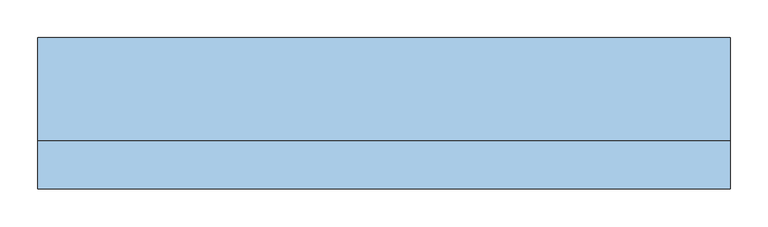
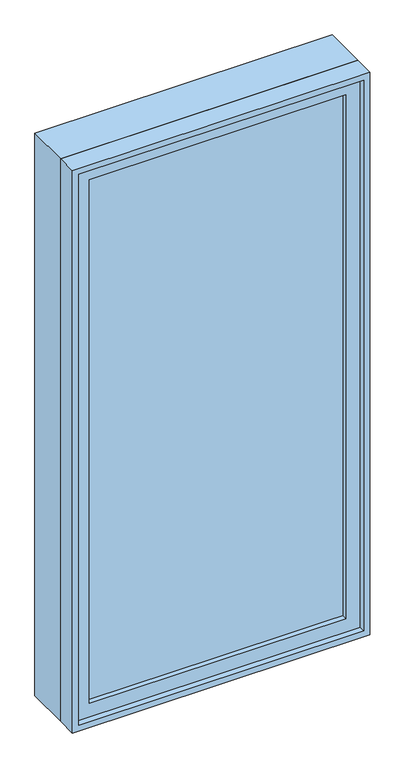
"""IFC4 building model written with IfcOpenShell, lengths in millimetres: window geometry, Фиксированные : 0915 x 1830 мм."""

from ifc_helpers import new_model, si_unit, frame, origin, place, context, project, spatial, polyline, outline, extrude, source, transform, mapped, element, save


def window_ed32443c(model_context):
    return source(origin(), model_context, "Body", "SweptSolid", [
        extrude(outline(polyline([(-394.5, -78.0), (-394.5, -66.0), (394.5, -66.0), (394.5, -78.0), (-394.5, -78.0)])), frame((0.0, 0.0, 368.0), z_axis=(0.0, 0.0, 1.0), x_axis=(1.0, 0.0, 0.0)), (0.0, 0.0, 1.0), 1704.0),
        extrude(outline(polyline([(2116.0, -438.5), (324.0, -438.5), (324.0, 438.5), (2116.0, 438.5), (2116.0, -438.5)]), holes=[polyline([(2072.0, -394.5), (2072.0, 394.5), (368.0, 394.5), (368.0, -394.5), (2072.0, -394.5)])]), frame((0.0, -94.0, 0.0), z_axis=(0.0, 1.0, 0.0), x_axis=(0.0, 0.0, 1.0)), (0.0, 0.0, 1.0), 44.0),
        extrude(outline(polyline([(2135.0, -457.5), (305.0, -457.5), (305.0, 457.5), (2135.0, 457.5), (2135.0, -457.5)]), holes=[polyline([(2116.0, -438.5), (2116.0, 438.5), (324.0, 438.5), (324.0, -438.5), (2116.0, -438.5)])]), frame((0.0, -113.0, 0.0), z_axis=(0.0, 1.0, 0.0), x_axis=(0.0, 0.0, 1.0)), (0.0, 0.0, 1.0), 63.0),
        extrude(outline(polyline([(2135.0, -457.5), (305.0, -457.5), (305.0, 457.5), (2135.0, 457.5), (2135.0, -457.5)]), holes=[polyline([(2103.0, -425.5), (2103.0, 425.5), (337.0, 425.5), (337.0, -425.5), (2103.0, -425.5)])]), frame((0.0, -50.0, 0.0), z_axis=(0.0, 1.0, 0.0), x_axis=(0.0, 0.0, 1.0)), (0.0, 0.0, 1.0), 137.0),
    ])


if __name__ == "__main__":
    model = new_model("IFC4")
    model_context = context("Model", 3, world=origin())
    ifc_project = project(units=[si_unit("LENGTHUNIT", "METRE", prefix="MILLI")], contexts=[model_context])
    site = spatial("IfcSite", under=ifc_project)
    building = spatial("IfcBuilding", under=site)
    placement = place(None, origin())
    window_shape = window_ed32443c(model_context)
    element("IfcWindow", 1, ObjectType="Фиксированные : 0915 x 1830 мм", at=placement, inside=building, context=model_context, shape_type="MappedRepresentation", body=[
        mapped(window_shape, transform((0.0, 0.0, 0.0), x_axis=(1.0, 0.0, 0.0), y_axis=(0.0, 1.0, 0.0), z_axis=(0.0, 0.0, 1.0))),
    ])
    save(model, "model.ifc")
